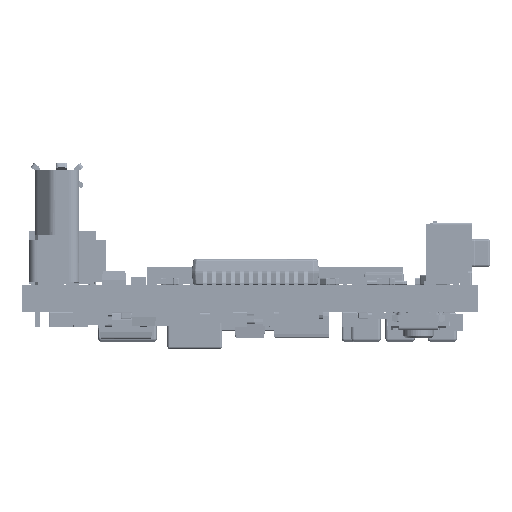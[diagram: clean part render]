
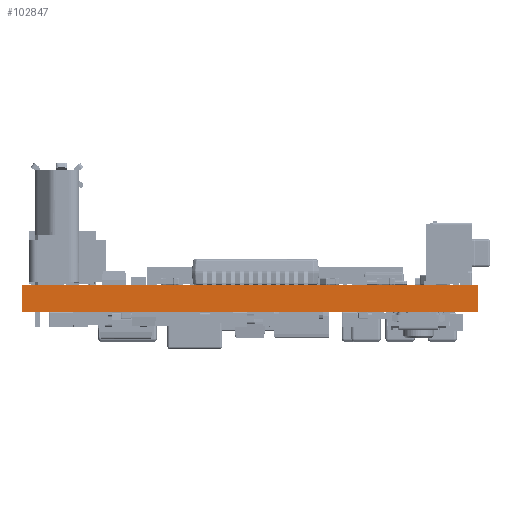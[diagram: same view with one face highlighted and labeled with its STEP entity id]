
A CAD part, left-side view. The second image highlights one B-rep face of the part: STEP entity #102847.
In plain terms, the highlighted planar face has unit normal (-1, 0, 0).
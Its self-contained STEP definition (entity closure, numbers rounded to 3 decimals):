
#6679=LINE('',#144775,#16988);
#6687=LINE('',#144791,#16996);
#6689=LINE('',#144794,#16998);
#6690=LINE('',#144795,#16999);
#16988=VECTOR('',#118321,1.);
#16996=VECTOR('',#118333,1.);
#16998=VECTOR('',#118337,1.);
#16999=VECTOR('',#118338,1.);
#29072=FACE_OUTER_BOUND('',#35070,.T.);
#35070=EDGE_LOOP('',(#69686,#69687,#69688,#69689));
#44251=VERTEX_POINT('',#144773);
#44252=VERTEX_POINT('',#144774);
#44257=VERTEX_POINT('',#144788);
#44258=VERTEX_POINT('',#144790);
#54229=EDGE_CURVE('',#44251,#44252,#6679,.T.);
#54237=EDGE_CURVE('',#44257,#44258,#6687,.T.);
#54239=EDGE_CURVE('',#44257,#44251,#6689,.T.);
#54240=EDGE_CURVE('',#44258,#44252,#6690,.T.);
#69686=ORIENTED_EDGE('',*,*,#54237,.F.);
#69687=ORIENTED_EDGE('',*,*,#54239,.T.);
#69688=ORIENTED_EDGE('',*,*,#54229,.T.);
#69689=ORIENTED_EDGE('',*,*,#54240,.F.);
#99266=PLANE('',#109525);
#102847=ADVANCED_FACE('',(#29072),#99266,.F.);
#109525=AXIS2_PLACEMENT_3D('',#144793,#118335,#118336);
#118321=DIRECTION('',(0.,0.,1.));
#118333=DIRECTION('',(0.,0.,1.));
#118335=DIRECTION('center_axis',(1.,0.,0.));
#118336=DIRECTION('ref_axis',(0.,-1.,0.));
#118337=DIRECTION('',(0.,-1.,0.));
#118338=DIRECTION('',(0.,-1.,0.));
#144773=CARTESIAN_POINT('',(0.,0.,0.));
#144774=CARTESIAN_POINT('',(0.,0.,1.513));
#144775=CARTESIAN_POINT('',(0.,0.,0.));
#144788=CARTESIAN_POINT('',(0.,25.,0.));
#144790=CARTESIAN_POINT('',(0.,25.,1.513));
#144791=CARTESIAN_POINT('',(0.,25.,0.));
#144793=CARTESIAN_POINT('Origin',(0.,25.,0.));
#144794=CARTESIAN_POINT('',(0.,25.,0.));
#144795=CARTESIAN_POINT('',(0.,25.,1.513));
